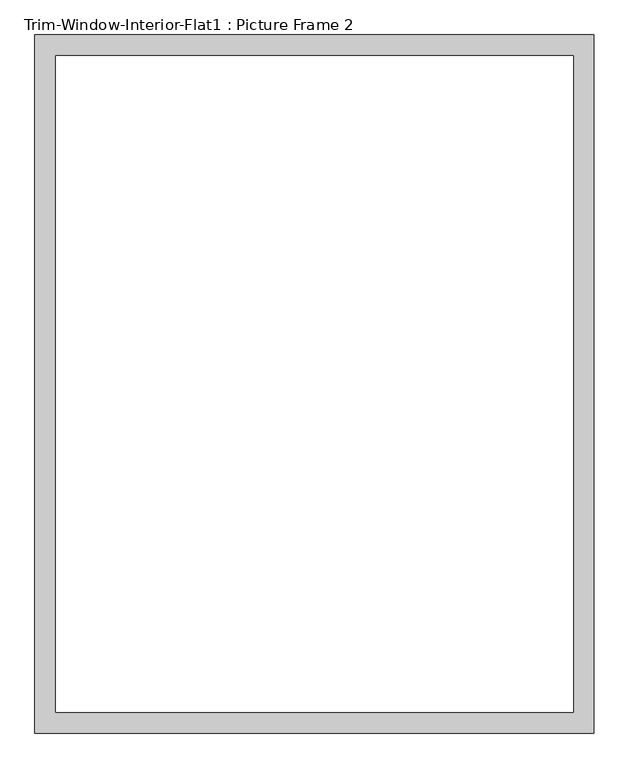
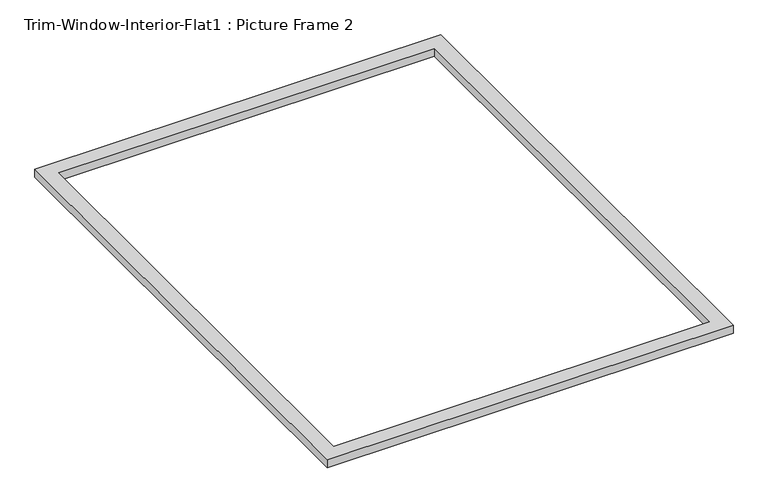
"""IFC4 building model written with IfcOpenShell, lengths in millimetres: proxy geometry, Trim-Window-Interior-Flat1 : Picture Frame 2."""

import ifcopenshell
import ifcopenshell.guid

model = None  # the IFC model being written
_history = None  # IfcOwnerHistory: only IFC2X3 demands one
_inside = {}  # id of a spatial element -> (the spatial element, [elements in it])
_under = {}  # id of a project, library or spatial element -> (it, [spatial elements below it])
_declared = {}  # id of a project -> (the project, [libraries it declares])
_typed = {}  # id of a type object -> (the type object, [elements of that type])
_made_of = {}  # id of a material, layer set ... -> (it, [elements and type objects made of it])


def new_model(schema):
    """Start an empty IFC model of exactly this schema.

    Asked for "IFC4X3", IfcOpenShell would pick the latest addendum, in which some entities
    have other attributes; the version numbers below select the first issue.
    IFC2X3 requires an IfcOwnerHistory on every rooted entity: one is made here for all.
    """
    global model, _history
    if schema == "IFC4X3":
        model = ifcopenshell.file(schema_version=(4, 3, 0, 0))
    else:
        model = ifcopenshell.file(schema=schema)
    _inside.clear()
    _under.clear()
    _declared.clear()
    _typed.clear()
    _made_of.clear()
    _history = None
    if model.schema == "IFC2X3":
        org = make("IfcOrganization", Name="unknown")
        user = make(
            "IfcPersonAndOrganization",
            ThePerson=make("IfcPerson", FamilyName="unknown"),
            TheOrganization=org,
        )
        app = make(
            "IfcApplication",
            ApplicationDeveloper=org,
            Version="unknown",
            ApplicationFullName="unknown",
            ApplicationIdentifier="unknown",
        )
        _history = make(
            "IfcOwnerHistory",
            OwningUser=user,
            OwningApplication=app,
            ChangeAction="ADDED",
            CreationDate=0,
        )
    return model


def make(cls, **values):
    """One entity of the class cls with the attributes given. An attribute that is None is left unset."""
    return model.create_entity(
        cls, **{name: value for name, value in values.items() if value is not None}
    )


def rooted(cls, **values):
    """An entity with a GlobalId (a new one), such as an element, a storey or a relation."""
    return make(cls, GlobalId=ifcopenshell.guid.new(), OwnerHistory=_history, **values)


def si_unit(unit_type, name, prefix=None):
    """IfcSIUnit, for example si_unit("LENGTHUNIT", "METRE", prefix="MILLI")."""
    return make("IfcSIUnit", UnitType=unit_type, Prefix=prefix, Name=name)


def assignment(units):
    """IfcUnitAssignment: the units of a project."""
    return None if units is None else make("IfcUnitAssignment", Units=units)


def point(xyz):
    """IfcCartesianPoint."""
    return None if xyz is None else make("IfcCartesianPoint", Coordinates=xyz)


def direction(xyz):
    """IfcDirection."""
    return None if xyz is None else make("IfcDirection", DirectionRatios=xyz)


def frame(location, z_axis=None, x_axis=None):
    """IfcAxis2Placement3D, a coordinate frame: its origin and axes. An axis left out is left unset."""
    return make(
        "IfcAxis2Placement3D",
        Location=point(location),
        Axis=direction(z_axis),
        RefDirection=direction(x_axis),
    )


def origin():
    """The frame at (0, 0, 0) with its axes left unset."""
    return frame((0.0, 0.0, 0.0))


def origin_with_axes():
    """The frame at (0, 0, 0) with the z axis (0, 0, 1) and the x axis (1, 0, 0) written out."""
    return frame((0.0, 0.0, 0.0), z_axis=(0.0, 0.0, 1.0), x_axis=(1.0, 0.0, 0.0))


def place(relative_to, where):
    """IfcLocalPlacement: puts the frame where relative to a parent placement (None: the world)."""
    return make(
        "IfcLocalPlacement", PlacementRelTo=relative_to, RelativePlacement=where
    )


def context(
    kind, dimensions, precision=None, world=None, true_north=None, identifier=None
):
    """IfcGeometricRepresentationContext, for example the 3D "Model" context."""
    return make(
        "IfcGeometricRepresentationContext",
        ContextIdentifier=identifier,
        ContextType=kind,
        CoordinateSpaceDimension=dimensions,
        Precision=precision,
        WorldCoordinateSystem=world,
        TrueNorth=true_north,
    )


def project(units=None, contexts=None):
    """IfcProject with its units and contexts."""
    return rooted(
        "IfcProject",
        Name="project",
        RepresentationContexts=contexts,
        UnitsInContext=assignment(units),
    )


def spatial(cls, under=None, at=None, **own):
    """A site, building, storey or space (cls), placed at a placement, below another one or the project."""
    s = rooted(cls, ObjectPlacement=at, **own)
    if under is not None:
        _under.setdefault(under.id(), (under, []))[1].append(s)
    return s


def polyline(points):
    """IfcPolyline through the points."""
    return make("IfcPolyline", Points=[point(p) for p in points])


def outline(outer, holes=None, kind="AREA"):
    """IfcArbitraryClosedProfileDef: a profile drawn as a closed curve; with holes, ...WithVoids."""
    if holes is None:
        return make("IfcArbitraryClosedProfileDef", ProfileType=kind, OuterCurve=outer)
    return make(
        "IfcArbitraryProfileDefWithVoids",
        ProfileType=kind,
        OuterCurve=outer,
        InnerCurves=holes,
    )


def extrude(swept, where, along, depth):
    """IfcExtrudedAreaSolid: the profile swept, set in the frame where, extruded along a direction by depth."""
    return make(
        "IfcExtrudedAreaSolid",
        SweptArea=swept,
        Position=where,
        ExtrudedDirection=direction(along),
        Depth=depth,
    )


def shape(context_of_items, identifier, shape_type, items):
    """IfcShapeRepresentation: the items that make up one representation, for example the "Body"."""
    return make(
        "IfcShapeRepresentation",
        ContextOfItems=context_of_items,
        RepresentationIdentifier=identifier,
        RepresentationType=shape_type,
        Items=items,
    )


def source(mapping_origin, context_of_items, identifier, shape_type, items):
    """IfcRepresentationMap: a shape defined once, which mapped items show again and again."""
    return make(
        "IfcRepresentationMap",
        MappingOrigin=mapping_origin,
        MappedRepresentation=shape(context_of_items, identifier, shape_type, items),
    )


def transform(
    local_origin,
    x_axis=None,
    y_axis=None,
    z_axis=None,
    scale=None,
    scale2=None,
    scale3=None,
    uniform=True,
):
    """IfcCartesianTransformationOperator3D, or its non-uniform kind. x_axis, y_axis, z_axis: its Axis1, 2, 3."""
    if uniform:
        return make(
            "IfcCartesianTransformationOperator3D",
            Axis1=direction(x_axis),
            Axis2=direction(y_axis),
            LocalOrigin=point(local_origin),
            Scale=scale,
            Axis3=direction(z_axis),
        )
    return make(
        "IfcCartesianTransformationOperator3DnonUniform",
        Axis1=direction(x_axis),
        Axis2=direction(y_axis),
        LocalOrigin=point(local_origin),
        Scale=scale,
        Axis3=direction(z_axis),
        Scale2=scale2,
        Scale3=scale3,
    )


def mapped(mapping_source, mapping_target):
    """IfcMappedItem: shows the shape of a source again, moved by a transform."""
    return make(
        "IfcMappedItem", MappingSource=mapping_source, MappingTarget=mapping_target
    )


def made_of(thing, what):
    """Note that an element or type object is made of a material, layer set ...; save() writes the relation."""
    if what is not None:
        _made_of.setdefault(what.id(), (what, []))[1].append(thing)
    return thing


def element(
    cls,
    number,
    at=None,
    inside=None,
    cuts=None,
    type_object=None,
    material=None,
    context=None,
    identifier="Body",
    shape_type=None,
    held_by="IfcProductDefinitionShape",
    body=None,
    shapes=None,
    **own,
):
    """One element of the class cls, such as IfcWall. Its Tag is "e" and its number.

    at: its placement. inside: the storey or other place that contains it. cuts: it is an
    opening in that element (IfcRelVoidsElement). A single representation is given by context,
    identifier, shape_type and body (its items); several are given by shapes. held_by: the class
    of the entity that holds the representations. save() writes the other relations.
    """
    e = rooted(cls, Tag="e%d" % number, ObjectPlacement=at, **own)
    if body is not None:
        shapes = [shape(context, identifier, shape_type, body)]
    if shapes is not None:
        e.Representation = make(held_by, Representations=shapes)
    if inside is not None:
        _inside.setdefault(inside.id(), (inside, []))[1].append(e)
    if cuts is not None:
        rooted(
            "IfcRelVoidsElement", RelatingBuildingElement=cuts, RelatedOpeningElement=e
        )
    if type_object is not None:
        _typed.setdefault(type_object.id(), (type_object, []))[1].append(e)
    return made_of(e, material)


def aggregate(whole, parts):
    """IfcRelAggregates: a whole, such as a stair, and the parts it consists of."""
    return rooted("IfcRelAggregates", RelatingObject=whole, RelatedObjects=parts)


def save(model, path):
    """Write the relations noted so far, then the file.

    IfcRelAggregates (storeys below a building ...), IfcRelContainedInSpatialStructure (elements
    in a storey), IfcRelDefinesByType, IfcRelAssociatesMaterial and IfcRelDeclares: one each for
    every whole, place, type object, material and project.
    """
    for whole, parts in _under.values():
        aggregate(whole, parts)
    for where, things in _inside.values():
        rooted(
            "IfcRelContainedInSpatialStructure",
            RelatedElements=things,
            RelatingStructure=where,
        )
    for kind, things in _typed.values():
        rooted("IfcRelDefinesByType", RelatedObjects=things, RelatingType=kind)
    for what, things in _made_of.values():
        rooted("IfcRelAssociatesMaterial", RelatedObjects=things, RelatingMaterial=what)
    for by, libraries in _declared.values():
        rooted("IfcRelDeclares", RelatingContext=by, RelatedDefinitions=libraries)
    model.write(path)


def trim_window_interior_flat1_picture_frame_2_2a7685fe(model_context):
    return source(origin(), model_context, "Body", "SweptSolid", [
        extrude(outline(polyline([(768.35, 44.45), (768.35, -1873.25), (-768.35, -1873.25), (-768.35, 44.45), (768.35, 44.45)]), holes=[polyline([(711.2, -12.7), (-711.2, -12.7), (-711.2, -1816.1), (711.2, -1816.1), (711.2, -12.7)])]), origin_with_axes(), (0.0, 0.0, 1.0), 31.75),
    ])


if __name__ == "__main__":
    model = new_model("IFC4")
    model_context = context("Model", 3, world=origin())
    ifc_project = project(units=[si_unit("LENGTHUNIT", "METRE", prefix="MILLI")], contexts=[model_context])
    site = spatial("IfcSite", under=ifc_project)
    building = spatial("IfcBuilding", under=site)
    placement = place(None, origin())
    trim_window_interior_flat1_picture_frame_2_shape = trim_window_interior_flat1_picture_frame_2_2a7685fe(model_context)
    element("IfcBuildingElementProxy", 1, Name="Trim-Window-Interior-Flat1 : Picture Frame 2", ObjectType="Trim-Window-Interior-Flat1 : Picture Frame 2", at=placement, inside=building, context=model_context, shape_type="MappedRepresentation", body=[
        mapped(trim_window_interior_flat1_picture_frame_2_shape, transform((0.0, 0.0, 0.0), x_axis=(1.0, 0.0, 0.0), y_axis=(0.0, 1.0, 0.0), z_axis=(0.0, 0.0, 1.0))),
    ])
    save(model, "model.ifc")
